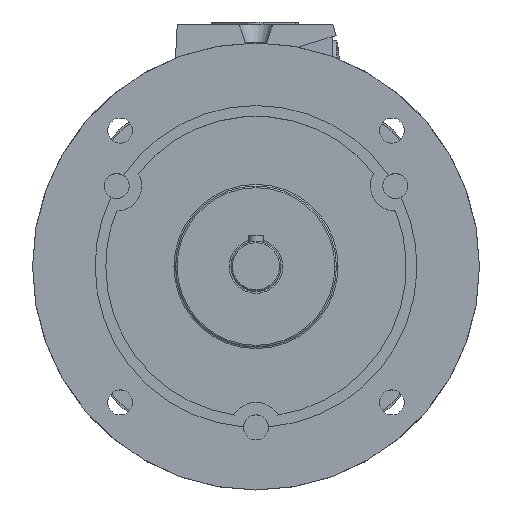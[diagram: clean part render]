
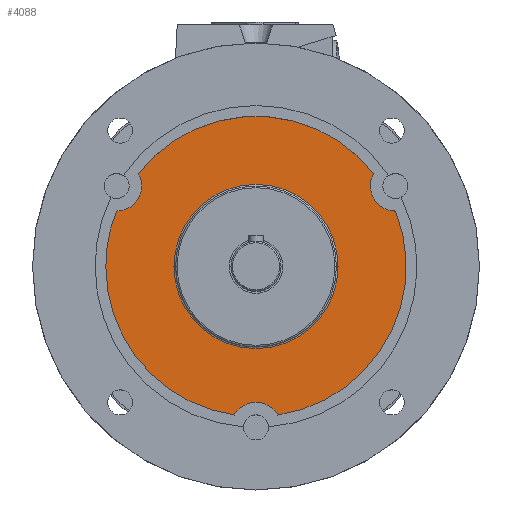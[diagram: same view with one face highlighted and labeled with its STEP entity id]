
A CAD part, top view. The second image highlights one B-rep face of the part: STEP entity #4088.
In plain terms, the highlighted planar face has unit normal (0, 0, 1).
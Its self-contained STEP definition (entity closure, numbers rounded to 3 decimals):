
#48 = VERTEX_POINT ( 'NONE', #2795 ) ;
#460 = AXIS2_PLACEMENT_3D ( 'NONE', #522, #13477, #9664 ) ;
#478 = DIRECTION ( 'NONE',  ( 0., 0., -1. ) ) ;
#515 = CARTESIAN_POINT ( 'NONE',  ( -45.9, 0., 48. ) ) ;
#522 = CARTESIAN_POINT ( 'NONE',  ( 0., -90., 48. ) ) ;
#602 = EDGE_CURVE ( 'NONE', #8298, #1873, #3130, .T. ) ;
#1589 = DIRECTION ( 'NONE',  ( 1., 0., 0. ) ) ;
#1841 = CARTESIAN_POINT ( 'NONE',  ( 45.9, 0., 48. ) ) ;
#1873 = VERTEX_POINT ( 'NONE', #1841 ) ;
#2005 = AXIS2_PLACEMENT_3D ( 'NONE', #11118, #7140, #3173 ) ;
#2291 = CARTESIAN_POINT ( 'NONE',  ( -63.942, 45., 48. ) ) ;
#2364 = AXIS2_PLACEMENT_3D ( 'NONE', #4593, #9868, #1589 ) ;
#2433 = DIRECTION ( 'NONE',  ( 0., 0., -1. ) ) ;
#2605 = EDGE_CURVE ( 'NONE', #5280, #4660, #5020, .T. ) ;
#2795 = CARTESIAN_POINT ( 'NONE',  ( -84., 0., 48. ) ) ;
#3001 = CARTESIAN_POINT ( 'NONE',  ( -77.942, 45., 48. ) ) ;
#3028 = EDGE_CURVE ( 'NONE', #5280, #12714, #13613, .T. ) ;
#3090 = ORIENTED_EDGE ( 'NONE', *, *, #10736, .T. ) ;
#3130 = CIRCLE ( 'NONE', #15845, 45.9 ) ;
#3173 = DIRECTION ( 'NONE',  ( 1., 0., 0. ) ) ;
#3370 = ORIENTED_EDGE ( 'NONE', *, *, #6930, .T. ) ;
#3417 = DIRECTION ( 'NONE',  ( 0., 0., -1. ) ) ;
#3585 = CARTESIAN_POINT ( 'NONE',  ( 12.188, -83.111, 48. ) ) ;
#3938 = PLANE ( 'NONE',  #8347 ) ;
#3997 = EDGE_CURVE ( 'NONE', #5758, #48, #8908, .T. ) ;
#4088 = ADVANCED_FACE ( 'NONE', ( #16905, #6523 ), #3938, .T. ) ;
#4423 = DIRECTION ( 'NONE',  ( -1., 0., 0. ) ) ;
#4593 = CARTESIAN_POINT ( 'NONE',  ( 77.942, 45., 48. ) ) ;
#4660 = VERTEX_POINT ( 'NONE', #2291 ) ;
#4857 = CIRCLE ( 'NONE', #460, 14. ) ;
#5020 = CIRCLE ( 'NONE', #2005, 14. ) ;
#5247 = EDGE_CURVE ( 'NONE', #1873, #8298, #13355, .T. ) ;
#5280 = VERTEX_POINT ( 'NONE', #13258 ) ;
#5565 = CARTESIAN_POINT ( 'NONE',  ( 0., 0., 48. ) ) ;
#5758 = VERTEX_POINT ( 'NONE', #13988 ) ;
#6234 = DIRECTION ( 'NONE',  ( -1., 0., 0. ) ) ;
#6348 = CARTESIAN_POINT ( 'NONE',  ( 0., 84., 48. ) ) ;
#6523 = FACE_BOUND ( 'NONE', #15395, .T. ) ;
#6587 = EDGE_CURVE ( 'NONE', #13531, #12714, #9541, .T. ) ;
#6603 = DIRECTION ( 'NONE',  ( 0., 0., 1. ) ) ;
#6763 = CIRCLE ( 'NONE', #9258, 84. ) ;
#6930 = EDGE_CURVE ( 'NONE', #5758, #9786, #4857, .T. ) ;
#7140 = DIRECTION ( 'NONE',  ( 0., 0., -1. ) ) ;
#7177 = DIRECTION ( 'NONE',  ( 0., 0., -1. ) ) ;
#7392 = CARTESIAN_POINT ( 'NONE',  ( 0., 0., 48. ) ) ;
#7533 = AXIS2_PLACEMENT_3D ( 'NONE', #7392, #3417, #11280 ) ;
#7655 = VERTEX_POINT ( 'NONE', #8803 ) ;
#7656 = ORIENTED_EDGE ( 'NONE', *, *, #2605, .T. ) ;
#8085 = ORIENTED_EDGE ( 'NONE', *, *, #5247, .T. ) ;
#8257 = CIRCLE ( 'NONE', #15161, 84. ) ;
#8298 = VERTEX_POINT ( 'NONE', #515 ) ;
#8332 = ORIENTED_EDGE ( 'NONE', *, *, #13472, .F. ) ;
#8347 = AXIS2_PLACEMENT_3D ( 'NONE', #6348, #6603, #9207 ) ;
#8679 = EDGE_CURVE ( 'NONE', #13531, #9786, #6763, .T. ) ;
#8803 = CARTESIAN_POINT ( 'NONE',  ( -78.07, 31.001, 48. ) ) ;
#8908 = CIRCLE ( 'NONE', #15252, 84. ) ;
#9122 = EDGE_LOOP ( 'NONE', ( #12111, #10956, #7656, #3090, #8332, #17033, #3370, #15492 ) ) ;
#9207 = DIRECTION ( 'NONE',  ( 1., 0., 0. ) ) ;
#9258 = AXIS2_PLACEMENT_3D ( 'NONE', #14277, #2433, #6234 ) ;
#9541 = CIRCLE ( 'NONE', #2364, 14. ) ;
#9664 = DIRECTION ( 'NONE',  ( 1., 0., 0. ) ) ;
#9737 = DIRECTION ( 'NONE',  ( 1., 0., 0. ) ) ;
#9786 = VERTEX_POINT ( 'NONE', #3585 ) ;
#9868 = DIRECTION ( 'NONE',  ( 0., 0., -1. ) ) ;
#9945 = DIRECTION ( 'NONE',  ( 0., 0., -1. ) ) ;
#10736 = EDGE_CURVE ( 'NONE', #4660, #7655, #11997, .T. ) ;
#10956 = ORIENTED_EDGE ( 'NONE', *, *, #3028, .F. ) ;
#11118 = CARTESIAN_POINT ( 'NONE',  ( -77.942, 45., 48. ) ) ;
#11280 = DIRECTION ( 'NONE',  ( -1., 0., 0. ) ) ;
#11717 = DIRECTION ( 'NONE',  ( 0., 0., -1. ) ) ;
#11802 = CARTESIAN_POINT ( 'NONE',  ( 0., 0., 48. ) ) ;
#11997 = CIRCLE ( 'NONE', #15596, 14. ) ;
#12045 = DIRECTION ( 'NONE',  ( -1., 0., 0. ) ) ;
#12111 = ORIENTED_EDGE ( 'NONE', *, *, #6587, .T. ) ;
#12714 = VERTEX_POINT ( 'NONE', #16170 ) ;
#12843 = DIRECTION ( 'NONE',  ( -1., 0., 0. ) ) ;
#12950 = DIRECTION ( 'NONE',  ( -1., 0., 0. ) ) ;
#13067 = AXIS2_PLACEMENT_3D ( 'NONE', #5565, #478, #12045 ) ;
#13258 = CARTESIAN_POINT ( 'NONE',  ( -65.882, 52.111, 48. ) ) ;
#13355 = CIRCLE ( 'NONE', #13067, 45.9 ) ;
#13472 = EDGE_CURVE ( 'NONE', #48, #7655, #8257, .T. ) ;
#13477 = DIRECTION ( 'NONE',  ( 0., 0., -1. ) ) ;
#13531 = VERTEX_POINT ( 'NONE', #13845 ) ;
#13613 = CIRCLE ( 'NONE', #7533, 84. ) ;
#13845 = CARTESIAN_POINT ( 'NONE',  ( 78.07, 31.001, 48. ) ) ;
#13988 = CARTESIAN_POINT ( 'NONE',  ( -12.188, -83.111, 48. ) ) ;
#14277 = CARTESIAN_POINT ( 'NONE',  ( 0., 0., 48. ) ) ;
#15161 = AXIS2_PLACEMENT_3D ( 'NONE', #16445, #7177, #4423 ) ;
#15252 = AXIS2_PLACEMENT_3D ( 'NONE', #11802, #11717, #12843 ) ;
#15395 = EDGE_LOOP ( 'NONE', ( #16126, #8085 ) ) ;
#15492 = ORIENTED_EDGE ( 'NONE', *, *, #8679, .F. ) ;
#15596 = AXIS2_PLACEMENT_3D ( 'NONE', #3001, #16326, #9737 ) ;
#15845 = AXIS2_PLACEMENT_3D ( 'NONE', #16854, #9945, #12950 ) ;
#16126 = ORIENTED_EDGE ( 'NONE', *, *, #602, .T. ) ;
#16170 = CARTESIAN_POINT ( 'NONE',  ( 65.882, 52.111, 48. ) ) ;
#16326 = DIRECTION ( 'NONE',  ( 0., 0., -1. ) ) ;
#16445 = CARTESIAN_POINT ( 'NONE',  ( 0., 0., 48. ) ) ;
#16854 = CARTESIAN_POINT ( 'NONE',  ( 0., 0., 48. ) ) ;
#16905 = FACE_OUTER_BOUND ( 'NONE', #9122, .T. ) ;
#17033 = ORIENTED_EDGE ( 'NONE', *, *, #3997, .F. ) ;
